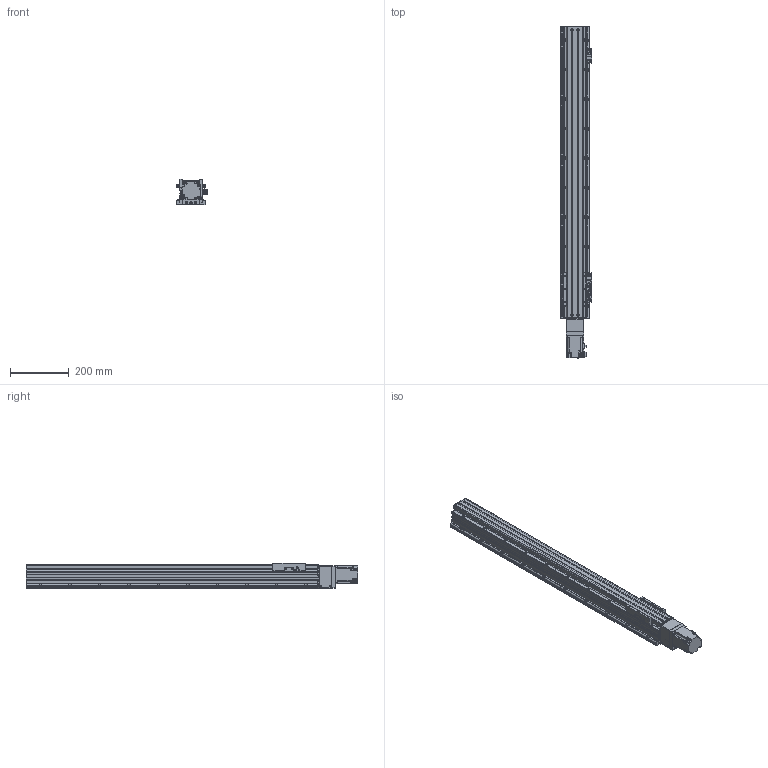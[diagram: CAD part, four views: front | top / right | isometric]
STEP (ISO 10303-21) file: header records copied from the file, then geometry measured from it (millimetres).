
FILE_DESCRIPTION(/* description */ ('MANUFACTURE'),/* implementation_level */ '2;1');
FILE_NAME(/* name */ '\\192.168.0.160\disk1\HAN SHIN Master\B-설계부문\C-표준\B-2024년\BC02-표준도면\+로봇 개선표준도면\표준 승인도 폴더 - 재작업\3D\HS Type\HS75\S-Type\HS75-S20-N1B-0800-R10.stp',/* time_stamp */ '2024-05-08T14:44:39+09:00',/* author */ ('User'),/* organization */ (''),/* preprocessor_version */ 'ST-DEVELOPER v18.1',/* originating_system */ 'Autodesk Inventor 2022',/* authorisation */ 'LIP');
FILE_SCHEMA (('AUTOMOTIVE_DESIGN { 1 0 10303 214 3 1 1 }'));
Products named in the file (28): HS75-S20-N1B-0500-R10 - 간소화; HS75 100W S BASE; UPCOVER; HS75 REAR BLOCK; SDWA-31C-10x14(00-00); HS75 FRONT BLOCK-AN; HS75 FRONT BLOCK; 7001ADF; BEARING COVER(∅15); SPACER(∅15); RN12; HS75 FRONT COVER; HS75 FRONT COVER_1; COUPLING COVER; HS75 SIDE COVER; HS75 SENSOR DOG-1; NIPPLE CAP(신규); hsr_ftht_A-M6F_grease_nipple_joint; SENSOR BRK(EE-SX674A); EE_SX674A; M3-5(렌치볼트); HG75 S MOTOR PLATE-B; HG75 S MOTOR PLATE-M; hg-kr23_; HG90STOPPER - 17L; LMKE1520 NUT; HS75 TABLE - 1BLOCK; HS75 SIDE COVER (100W, 1B)_MIR
Assembly tree (37 placements, depth 3):
  HS75-S20-N1B-0500-R10 - 간소화
    HS75 100W S BASE
    UPCOVER
    HS75 REAR BLOCK
    SDWA-31C-10x14(00-00)
    HS75 FRONT BLOCK-AN
      HS75 FRONT BLOCK
      7001ADF
      BEARING COVER(∅15)
      SPACER(∅15)
      RN12
    HS75 FRONT COVER
    HS75 FRONT COVER_1
    HG90STOPPER - 17L  x2
    COUPLING COVER
    SENSOR BRK(EE-SX674A)  x3
    EE_SX674A  x3
    hsr_ftht_A-M6F_grease_nipple_joint  x2
    NIPPLE CAP(신규)  x2
    HS75 SIDE COVER
    HS75 SENSOR DOG-1
    M3-5(렌치볼트)  x4
    HG75 S MOTOR PLATE-B
    HG75 S MOTOR PLATE-M
    hg-kr23_
    LMKE1520 NUT
    HS75 TABLE - 1BLOCK
    HS75 SIDE COVER (100W, 1B)_MIR
Bounding box: 105.96 x 1125.6 x 85 mm (x, y, z)
Volume: 2779829.3 mm3; surface area: 965101.5 mm2
Topology: 59 solids, 59 shells, 2301 faces, 6502 edges, 4240 vertices
Faces by surface type: plane 1136, cylinder 815, cone 230, torus 74, sphere 38, bspline 8
Full cylindrical faces by diameter (mm): 2.013 x2, 2.459 x20, 2.85 x4, 3 x12, 3.1 x1, 3.242 x60, 3.3 x2, 3.5 x6, 4 x18, 4.134 x50, 4.5 x53, 4.917 x21, 5 x28, 5.5 x16, 5.6 x10, 5.8 x4, 5.9 x10, 6 x6, 6.05 x4, 6.45 x6, 6.5 x4, 7.2 x2, 7.5 x4, 8 x7, 9.5 x10, 10 x1, 10.8 x1, 12 x3, 14 x2, 14.4 x3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
Entity records: 70100 total; most frequent: CARTESIAN_POINT 14954, DIRECTION 11526, ORIENTED_EDGE 11180, EDGE_CURVE 5590, AXIS2_PLACEMENT_3D 4270, VERTEX_POINT 3806, LINE 2986, VECTOR 2986
